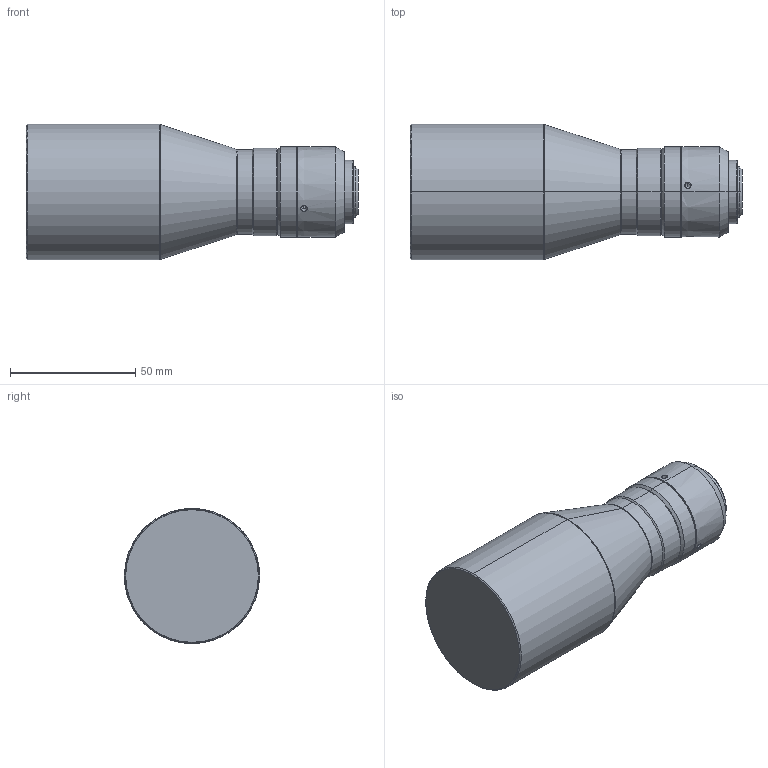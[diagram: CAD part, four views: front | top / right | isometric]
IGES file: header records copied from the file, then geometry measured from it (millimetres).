
Start section: SolidWorks IGES file using analytic representation for surfaces
Global section: file name: D:\撮扲窒\3D俋倛芞\3D   igs\DTCM\DTCM120\DTCM120-36-AL.IGS; native system: SolidWorks 2012; preprocessor: SolidWorks 2012; author: ZXC; date: 180718.145735; units: millimetre
Bounding box: 132.7 x 54 x 54 mm (x, y, z)
Surface area: 23301.7 mm2 (no closed solid volume)
Topology: 0 solids, 0 shells, 58 faces, 1042 edges, 1036 vertices
Faces by surface type: revolution 46, bspline 12
